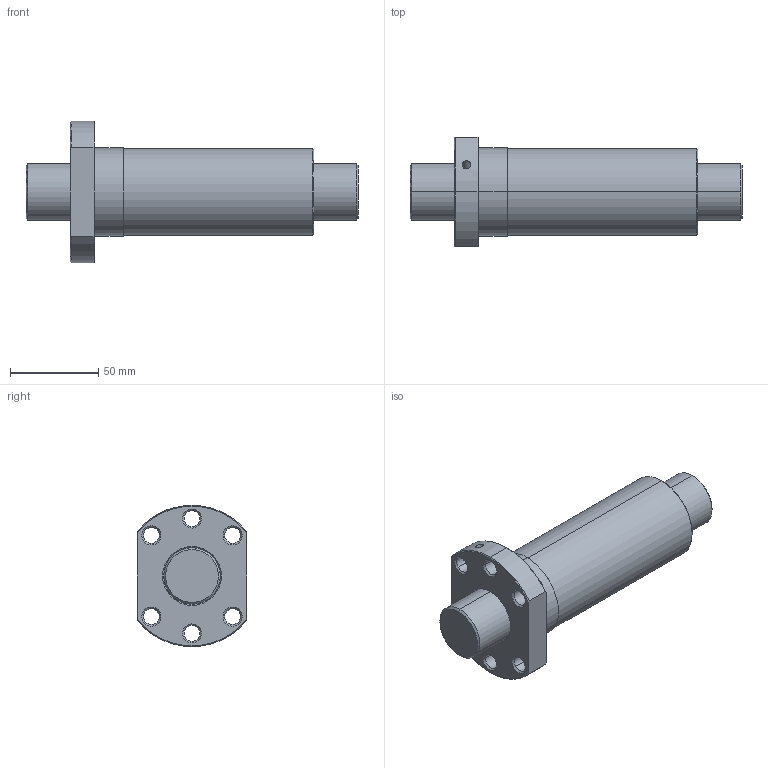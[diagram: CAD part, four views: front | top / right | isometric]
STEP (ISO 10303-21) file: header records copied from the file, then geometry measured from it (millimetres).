
FILE_DESCRIPTION(('no description'),'unknown implementation level');
FILE_NAME('R32_10T4_DDB_188_188_0_023_57.stp',' ',('HIWIN GmbH'),('CADClick - KiM GmbH - www.kimweb.de'),'unknown preprocess','ACIS','unknown authorization');
FILE_SCHEMA(('CONFIG_CONTROL_DESIGN'));
Length unit declared in the file: millimetre
Products named in the file (2): 1; 2
Bounding box: 188 x 62 x 80 mm (x, y, z)
Volume: 330959.3 mm3; surface area: 65477.7 mm2
Topology: 2 solids, 2 shells, 78 faces, 176 edges, 103 vertices
Faces by surface type: cone 44, cylinder 26, plane 8
Entity records: 2329 total; most frequent: CARTESIAN_POINT 440, DIRECTION 416, ORIENTED_EDGE 348, EDGE_CURVE 174, AXIS2_PLACEMENT_3D 172, VERTEX_POINT 103, EDGE_LOOP 95, CIRCLE 92
